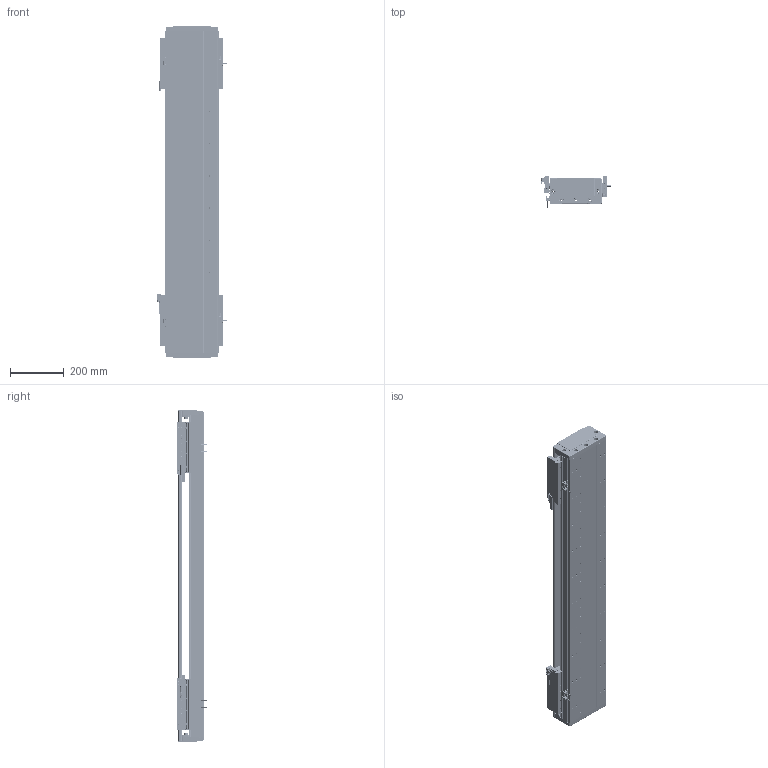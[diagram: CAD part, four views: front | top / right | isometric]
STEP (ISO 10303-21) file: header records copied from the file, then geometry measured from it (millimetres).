
FILE_DESCRIPTION (( 'STEP AP203' ), '1' );
FILE_NAME ('DA-C195-2-C2-840-C010-0.2 眻盄萇儂.STEP', '2025-08-14T01:43:09', ( '' ), ( '' ), 'SwSTEP 2.0', 'SolidWorks 2019', '' );
FILE_SCHEMA (( 'CONFIG_CONTROL_DESIGN' ));
Length unit declared in the file: millimetre
Products named in the file (16): CU195-C2賑輸-俋楷; PM-T45ㄗ侂狟ㄘ; IU-CU195-L 菁釱絳寢; LMT黍杅芛; DA195-DG-H-00  端盖（压铸镂空版）; DKW-GYP-ZJ-00 笢潔嫖萇覜茼え; DKW168-HXJ-ZJ-00 笢潔滅袉砎蝶; MS200 棠掑喜S315-T240; DKW-KGZ-ZJ-00 中间光电开关支架; IU-CU195-L-00 菁釱(L1200); 66156-0001-005-00 光电感应片(默认); DA95-HXJ-00 遣喳砎蝶; 葩璃 DA95-GT-T-00; 66156-0001-003-00 裔啣; PM-Y65嫖萇羲壽郪璃; DA-C195-2-C2-840-C010-0.2 眻盄萇儂
Assembly tree (28 placements, depth 3):
  DA-C195-2-C2-840-C010-0.2 眻盄萇儂
    IU-CU195-L 菁釱絳寢
      IU-CU195-L-00 菁釱(L1200)
      葩璃 DA95-GT-T-00  x4
    LMT黍杅芛  x2
    MS200 棠掑喜S315-T240
    PM-T45ㄗ侂狟ㄘ  x4
    66156-0001-005-00 光电感应片(默认)  x2
    DA195-DG-H-00  端盖（压铸镂空版）  x2
    DA95-HXJ-00 遣喳砎蝶  x4
    PM-Y65嫖萇羲壽郪璃
    66156-0001-003-00 裔啣
    DKW168-HXJ-ZJ-00 笢潔滅袉砎蝶
    DKW-GYP-ZJ-00 笢潔嫖萇覜茼え
    DKW-KGZ-ZJ-00 中间光电开关支架
    CU195-C2賑輸-俋楷  x2
Bounding box: 258.2 x 115.6 x 1240 mm (x, y, z)
Volume: 9860271.6 mm3; surface area: 2742037.4 mm2
Topology: 106 solids, 242 shells, 7886 faces, 19800 edges, 12035 vertices
Faces by surface type: cylinder 3210, plane 2860, cone 946, bspline 718, torus 80, sphere 72
Entity records: 156331 total; most frequent: CARTESIAN_POINT 47760, ORIENTED_EDGE 22602, DIRECTION 21602, EDGE_CURVE 11301, AXIS2_PLACEMENT_3D 7883, VERTEX_POINT 7150, LINE 5836, VECTOR 5836
